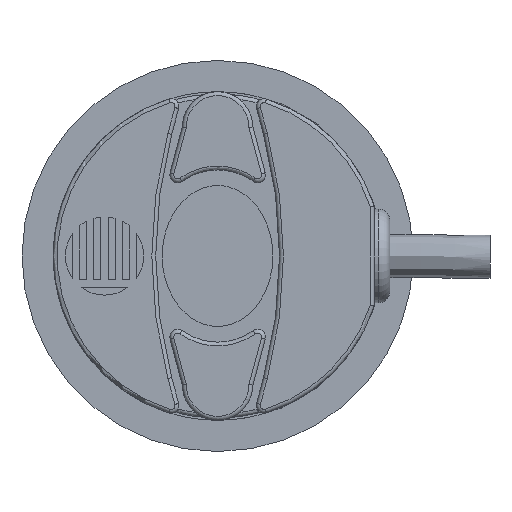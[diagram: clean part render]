
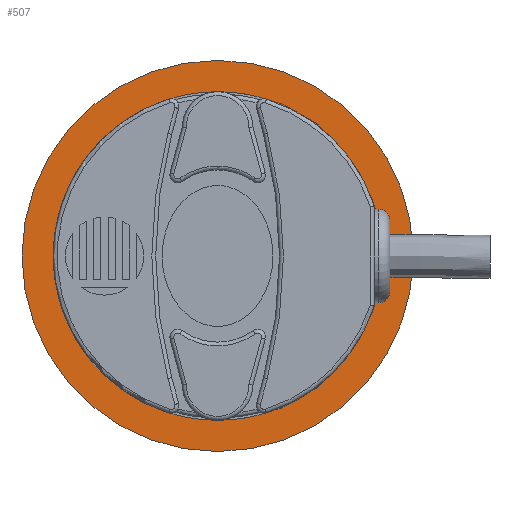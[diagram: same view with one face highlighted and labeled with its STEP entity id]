
A CAD part, left-side view. The second image highlights one B-rep face of the part: STEP entity #507.
In plain terms, the highlighted planar face has unit normal (-1, 0, 0) as drawn and (1, 0, 0) by its records, which use the part's own axes.
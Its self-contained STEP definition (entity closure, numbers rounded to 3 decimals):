
#507 = ADVANCED_FACE( '', ( #1155, #1156 ), #1157, .T. );
#1155 = FACE_BOUND( '', #2123, .T. );
#1156 = FACE_OUTER_BOUND( '', #2124, .T. );
#1157 = PLANE( '', #2125 );
#2123 = EDGE_LOOP( '', ( #4778 ) );
#2124 = EDGE_LOOP( '', ( #4779 ) );
#2125 = AXIS2_PLACEMENT_3D( '', #4780, #4781, #4782 );
#4778 = ORIENTED_EDGE( '', *, *, #6863, .T. );
#4779 = ORIENTED_EDGE( '', *, *, #6832, .F. );
#4780 = CARTESIAN_POINT( '', ( -0.559, 0., 25. ) );
#4781 = DIRECTION( '', ( 1., 0., 0. ) );
#4782 = DIRECTION( '', ( 0., 0., -1. ) );
#6832 = EDGE_CURVE( '', #7667, #7667, #7668, .T. );
#6863 = EDGE_CURVE( '', #7720, #7720, #7721, .T. );
#7667 = VERTEX_POINT( '', #9081 );
#7668 = CIRCLE( '', #9082, 25. );
#7720 = VERTEX_POINT( '', #9140 );
#7721 = CIRCLE( '', #9141, 19.4 );
#9081 = CARTESIAN_POINT( '', ( -0.559, 0., 25. ) );
#9082 = AXIS2_PLACEMENT_3D( '', #12669, #12670, #12671 );
#9140 = CARTESIAN_POINT( '', ( -0.559, 0., 19.4 ) );
#9141 = AXIS2_PLACEMENT_3D( '', #12723, #12724, #12725 );
#12669 = CARTESIAN_POINT( '', ( -0.559, 0., 0. ) );
#12670 = DIRECTION( '', ( -1., 0., 0. ) );
#12671 = DIRECTION( '', ( 0., 0., 1. ) );
#12723 = CARTESIAN_POINT( '', ( -0.559, 0., 0. ) );
#12724 = DIRECTION( '', ( -1., 0., 0. ) );
#12725 = DIRECTION( '', ( 0., 0., 1. ) );
